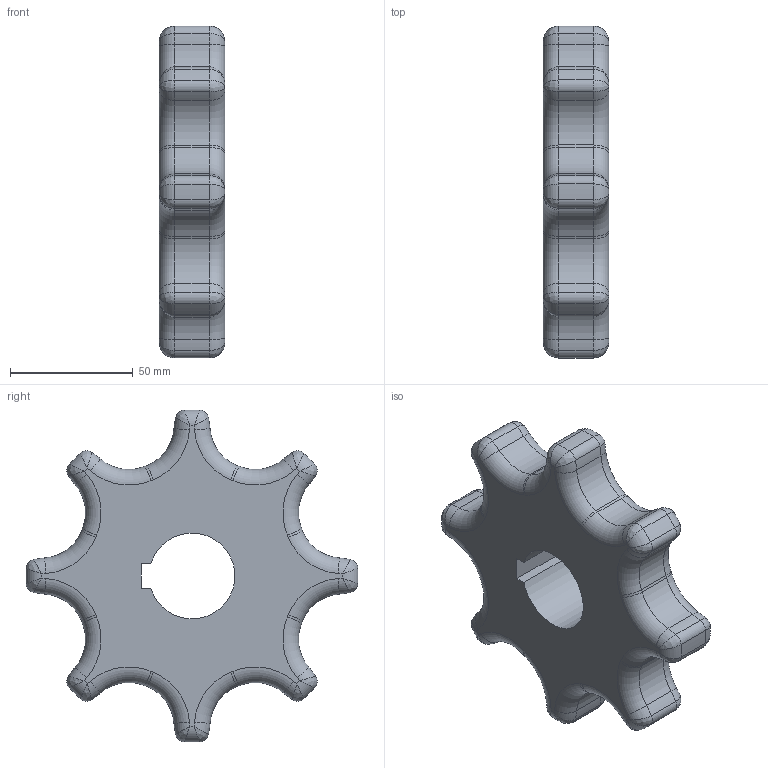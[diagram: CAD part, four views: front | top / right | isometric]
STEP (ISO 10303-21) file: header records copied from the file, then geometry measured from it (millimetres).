
FILE_DESCRIPTION((''),'2;1');
FILE_NAME('S3000_SPROCKET_52X1-1_4_RND','2008-12-12T',('jmumphre'),(''),'PRO/ENGINEER BY PARAMETRIC TECHNOLOGY CORPORATION, 2008150','PRO/ENGINEER BY PARAMETRIC TECHNOLOGY CORPORATION, 2008150','');
FILE_SCHEMA(('CONFIG_CONTROL_DESIGN'));
Length unit declared in the file: inch
Products named in the file (1): S3000_SPROCKET_52X1-1_4_RND
Bounding box: 26.8 x 135.33 x 135.33 mm (x, y, z)
Volume: 234120.5 mm3; surface area: 32388.6 mm2
Topology: 1 solids, 1 shells, 198 faces, 428 edges, 232 vertices
Faces by surface type: torus 80, cylinder 73, bspline 32, plane 13
Entity records: 7354 total; most frequent: CARTESIAN_POINT 3114, DIRECTION 954, ORIENTED_EDGE 856, EDGE_CURVE 428, AXIS2_PLACEMENT_3D 424, CIRCLE 258, VERTEX_POINT 232, EDGE_LOOP 200
